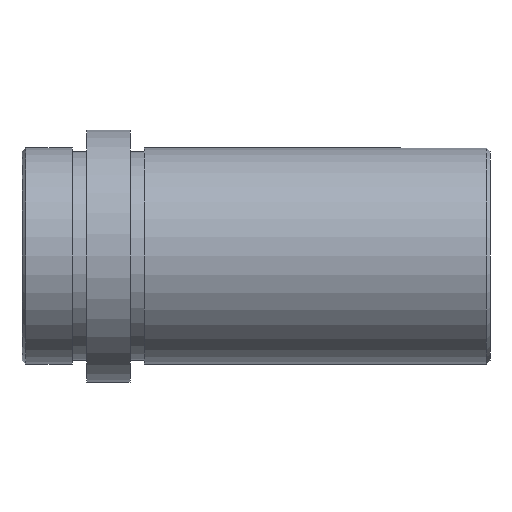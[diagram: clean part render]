
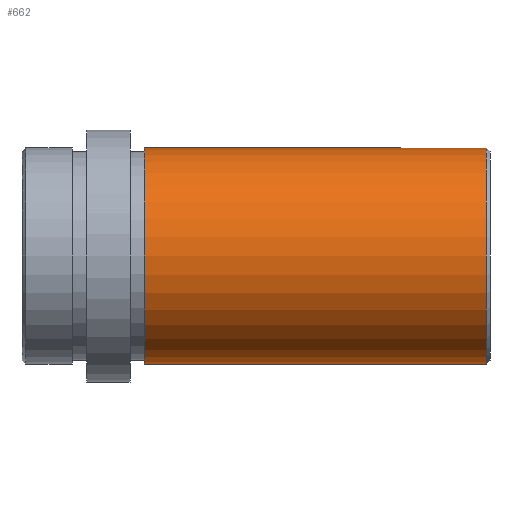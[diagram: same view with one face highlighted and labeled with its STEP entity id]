
A CAD part, front view. The second image highlights one B-rep face of the part: STEP entity #662.
In plain terms, the highlighted cylindrical face has radius 15 mm (diameter 30 mm), a partial arc.
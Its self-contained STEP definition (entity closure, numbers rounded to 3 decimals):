
#42 = CARTESIAN_POINT ( 'NONE',  ( 64.5, 0., 15. ) ) ;
#44 = ORIENTED_EDGE ( 'NONE', *, *, #727, .F. ) ;
#63 = EDGE_LOOP ( 'NONE', ( #44, #196, #235, #417 ) ) ;
#73 = DIRECTION ( 'NONE',  ( -1., 0., 0. ) ) ;
#97 = VERTEX_POINT ( 'NONE', #42 ) ;
#111 = FACE_OUTER_BOUND ( 'NONE', #63, .T. ) ;
#127 = DIRECTION ( 'NONE',  ( -1., 0., 0. ) ) ;
#161 = CARTESIAN_POINT ( 'NONE',  ( 75., 0., 15. ) ) ;
#162 = LINE ( 'NONE', #161, #624 ) ;
#171 = DIRECTION ( 'NONE',  ( 0., 0., 1. ) ) ;
#196 = ORIENTED_EDGE ( 'NONE', *, *, #709, .T. ) ;
#214 = CYLINDRICAL_SURFACE ( 'NONE', #575, 15. ) ;
#223 = VERTEX_POINT ( 'NONE', #348 ) ;
#228 = VERTEX_POINT ( 'NONE', #287 ) ;
#235 = ORIENTED_EDGE ( 'NONE', *, *, #730, .T. ) ;
#286 = CARTESIAN_POINT ( 'NONE',  ( 64.5, 0., -15. ) ) ;
#287 = CARTESIAN_POINT ( 'NONE',  ( 17., 0., -15. ) ) ;
#299 = CARTESIAN_POINT ( 'NONE',  ( 75., 0., -15. ) ) ;
#322 = DIRECTION ( 'NONE',  ( -1., 0., 0. ) ) ;
#330 = DIRECTION ( 'NONE',  ( -1., 0., 0. ) ) ;
#348 = CARTESIAN_POINT ( 'NONE',  ( 17., 0., 15. ) ) ;
#370 = CARTESIAN_POINT ( 'NONE',  ( 17., 0., 0. ) ) ;
#417 = ORIENTED_EDGE ( 'NONE', *, *, #688, .F. ) ;
#419 = DIRECTION ( 'NONE',  ( -1., 0., 0. ) ) ;
#427 = DIRECTION ( 'NONE',  ( 0., 0., 1. ) ) ;
#437 = LINE ( 'NONE', #299, #642 ) ;
#480 = VERTEX_POINT ( 'NONE', #286 ) ;
#481 = CARTESIAN_POINT ( 'NONE',  ( 75., 0., 0. ) ) ;
#494 = CARTESIAN_POINT ( 'NONE',  ( 64.5, 0., 0. ) ) ;
#516 = DIRECTION ( 'NONE',  ( 0., 0., 1. ) ) ;
#530 = CIRCLE ( 'NONE', #554, 15. ) ;
#548 = AXIS2_PLACEMENT_3D ( 'NONE', #370, #419, #516 ) ;
#554 = AXIS2_PLACEMENT_3D ( 'NONE', #494, #73, #427 ) ;
#575 = AXIS2_PLACEMENT_3D ( 'NONE', #481, #322, #171 ) ;
#579 = CIRCLE ( 'NONE', #548, 15. ) ;
#624 = VECTOR ( 'NONE', #127, 1000. ) ;
#642 = VECTOR ( 'NONE', #330, 1000. ) ;
#662 = ADVANCED_FACE ( 'NONE', ( #111 ), #214, .T. ) ;
#688 = EDGE_CURVE ( 'NONE', #228, #223, #579, .T. ) ;
#709 = EDGE_CURVE ( 'NONE', #480, #97, #530, .T. ) ;
#727 = EDGE_CURVE ( 'NONE', #480, #228, #437, .T. ) ;
#730 = EDGE_CURVE ( 'NONE', #97, #223, #162, .T. ) ;
